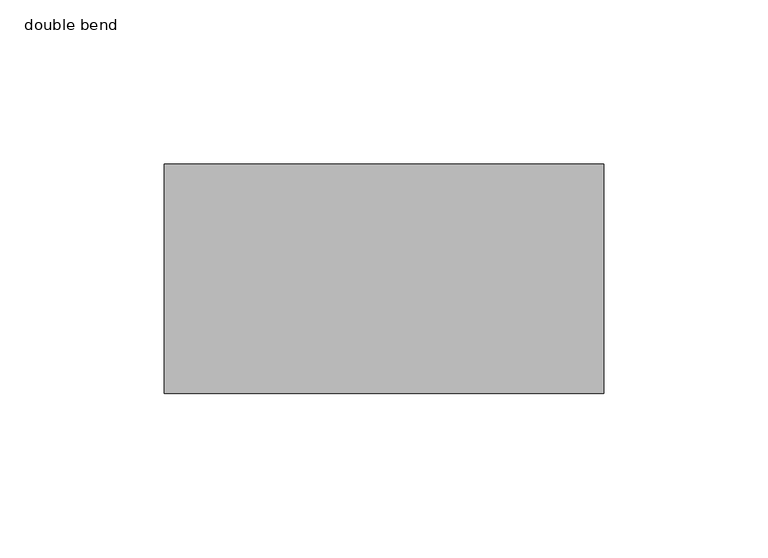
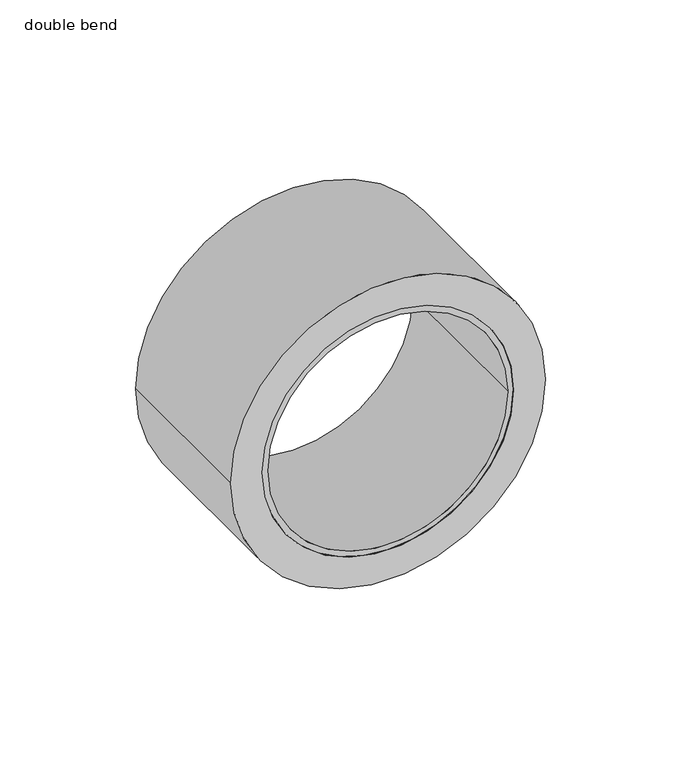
"""IFC4 building model written with IfcOpenShell, lengths in millimetres: pipe fitting geometry, PIF_ST_UN_GM-X compound pipe multi-bend_ACO : double bend."""

from ifc_helpers import new_model, si_unit, point, frame, origin, origin_2d, place, context, project, spatial, polyline, circle_curve, trimmed, segment, composite_curve, outline, extrude, source, transform, mapped, element, save
from ifc_brep_helpers import plane_surface, cylinder_surface, revolved_surface, advanced_brep


def double_bend_3e9cfc50(model_context):
    return source(origin(), model_context, "Body", "SolidModel", [
        extrude(outline(composite_curve([segment(trimmed(circle_curve(origin_2d(), 67.0), [point((0.0, 67.0))], [point((0.0, -67.0))], False, "CARTESIAN"), True, "CONTINUOUS"), segment(trimmed(circle_curve(origin_2d(), 67.0), [point((0.0, -67.0))], [point((0.0, 67.0))], False, "CARTESIAN"), True, "CONTINUOUS")], self_intersect=False), holes=[composite_curve([segment(trimmed(circle_curve(origin_2d(), 53.5), [point((0.0, 53.5))], [point((0.0, -53.5))], True, "CARTESIAN"), True, "CONTINUOUS"), segment(trimmed(circle_curve(origin_2d(), 53.5), [point((0.0, -53.5))], [point((0.0, 53.5))], True, "CARTESIAN"), True, "CONTINUOUS")], self_intersect=False)]), frame((0.0, 179.8650071, 0.0), z_axis=(0.0, 1.0, 0.0), x_axis=(0.0, 0.0, 1.0)), (0.0, 0.0, 1.0), 70.0),
        advanced_brep(
        [(53.5, 249.8650071, 0.0), (-53.5, 249.8650071, 0.0), (-51.0, 249.8650071, 0.0), (51.0, 249.8650071, 0.0), (53.5, 179.8650071, 0.0), (-53.5, 179.8650071, 0.0), (51.0, 179.8650071, 0.0), (-51.0, 179.8650071, 0.0), (53.5, 216.8650071, 0.0), (-53.5, 216.8650071, 0.0), (-53.5, 188.1650071, 0.0), (53.5, 188.1650071, 0.0), (59.0, 216.8650071, 0.0), (-59.0, 216.8650071, 0.0), (59.0, 188.1650071, 0.0), (-59.0, 188.1650071, 0.0)],
        [
            (0, 1, circle_curve(frame((0.0, 249.8650071, 0.0), z_axis=(0.0, 1.0, 0.0), x_axis=(-1.0, 0.0, 0.0)), 53.5)),
            (1, 0, circle_curve(frame((0.0, 249.8650071, 0.0), z_axis=(0.0, 1.0, 0.0), x_axis=(-1.0, 0.0, 0.0)), 53.5)),
            (2, 3, circle_curve(frame((0.0, 249.8650071, 0.0), z_axis=(0.0, -1.0, 0.0), x_axis=(-1.0, 0.0, 0.0)), 51.0)),
            (3, 2, circle_curve(frame((0.0, 249.8650071, 0.0), z_axis=(0.0, -1.0, 0.0), x_axis=(-1.0, 0.0, 0.0)), 51.0)),
            (4, 5, circle_curve(frame((0.0, 179.8650071, 0.0), z_axis=(0.0, -1.0, 0.0), x_axis=(-1.0, 0.0, 0.0)), 53.5)),
            (5, 4, circle_curve(frame((0.0, 179.8650071, 0.0), z_axis=(0.0, -1.0, 0.0), x_axis=(-1.0, 0.0, 0.0)), 53.5)),
            (6, 7, circle_curve(frame((0.0, 179.8650071, 0.0), z_axis=(0.0, 1.0, 0.0), x_axis=(-1.0, 0.0, 0.0)), 51.0)),
            (7, 6, circle_curve(frame((0.0, 179.8650071, 0.0), z_axis=(0.0, 1.0, 0.0), x_axis=(-1.0, 0.0, 0.0)), 51.0)),
            (0, 8),
            (8, 9, circle_curve(frame((0.0, 216.8650071, 0.0), z_axis=(0.0, 1.0, 0.0), x_axis=(-1.0, 0.0, 0.0)), 53.5)),
            (9, 1),
            (5, 10),
            (10, 11, circle_curve(frame((0.0, 188.1650071, 0.0), z_axis=(0.0, -1.0, 0.0), x_axis=(-1.0, 0.0, 0.0)), 53.5)),
            (11, 4),
            (9, 8, circle_curve(frame((0.0, 216.8650071, 0.0), z_axis=(0.0, 1.0, 0.0), x_axis=(-1.0, 0.0, 0.0)), 53.5)),
            (11, 10, circle_curve(frame((0.0, 188.1650071, 0.0), z_axis=(0.0, -1.0, 0.0), x_axis=(-1.0, 0.0, 0.0)), 53.5)),
            (2, 7),
            (6, 3),
            (12, 13, circle_curve(frame((0.0, 216.8650071, 0.0), z_axis=(0.0, 1.0, 0.0), x_axis=(-1.0, 0.0, 0.0)), 59.0)),
            (13, 12, circle_curve(frame((0.0, 216.8650071, 0.0), z_axis=(0.0, 1.0, 0.0), x_axis=(-1.0, 0.0, 0.0)), 59.0)),
            (14, 15, circle_curve(frame((0.0, 188.1650071, 0.0), z_axis=(0.0, -1.0, 0.0), x_axis=(-1.0, 0.0, 0.0)), 59.0)),
            (15, 14, circle_curve(frame((0.0, 188.1650071, 0.0), z_axis=(0.0, -1.0, 0.0), x_axis=(-1.0, 0.0, 0.0)), 59.0)),
            (12, 14),
            (15, 13),
        ],
        [
            plane_surface(frame((-53.5, 249.8650071, 0.0), z_axis=(0.0, 1.0, 0.0), x_axis=(0.0, 0.0, 1.0))),
            plane_surface(frame((-53.5, 179.8650071, 0.0), z_axis=(0.0, -1.0, 0.0), x_axis=(0.0, 0.0, -1.0))),
            cylinder_surface(frame((0.0, 179.8650071, 0.0), z_axis=(0.0, 1.0, 0.0), x_axis=(-1.0, 0.0, 0.0)), 53.5),
            revolved_surface(polyline([(-51.0, 249.8650071, 0.0), (-51.0, 179.8650071, 0.0)]), (0.0, 179.8650071, 0.0), (0.0, 1.0, 0.0)),
            plane_surface(frame((-59.0, 216.8650071, 0.0), z_axis=(0.0, 1.0, 0.0), x_axis=(0.0, 0.0, 1.0))),
            plane_surface(frame((-59.0, 188.1650071, 0.0), z_axis=(0.0, -1.0, 0.0), x_axis=(0.0, 0.0, -1.0))),
            cylinder_surface(frame((0.0, 188.1650071, 0.0), z_axis=(0.0, 1.0, 0.0), x_axis=(-1.0, 0.0, 0.0)), 59.0),
        ],
        [
            (0, [[1, 2], [3, 4]]),
            (1, [[5, 6], [7, 8]]),
            (2, [[-1, 9, 10, 11]]),
            (2, [[-6, 12, 13, 14]]),
            (2, [[-2, -11, 15, -9]]),
            (2, [[-5, -14, 16, -12]]),
            (3, [[17, -7, 18, -3]]),
            (3, [[-17, -4, -18, -8]]),
            (4, [[19, 20], [-10, -15]]),
            (5, [[21, 22], [-13, -16]]),
            (6, [[-19, 23, -22, 24]]),
            (6, [[-20, -24, -21, -23]]),
        ],
    ),
    ])


if __name__ == "__main__":
    model = new_model("IFC4")
    model_context = context("Model", 3, world=origin())
    ifc_project = project(units=[si_unit("LENGTHUNIT", "METRE", prefix="MILLI")], contexts=[model_context])
    site = spatial("IfcSite", under=ifc_project)
    building = spatial("IfcBuilding", under=site)
    placement = place(None, origin())
    double_bend_shape = double_bend_3e9cfc50(model_context)
    element("IfcPipeFitting", 1, ObjectType="PIF_ST_UN_GM-X compound pipe multi-bend_ACO : double bend", at=placement, inside=building, context=model_context, shape_type="MappedRepresentation", body=[
        mapped(double_bend_shape, transform((0.0, 0.0, 0.0), x_axis=(1.0, 0.0, 0.0), y_axis=(0.0, 1.0, 0.0), z_axis=(0.0, 0.0, 1.0))),
    ])
    save(model, "model.ifc")
